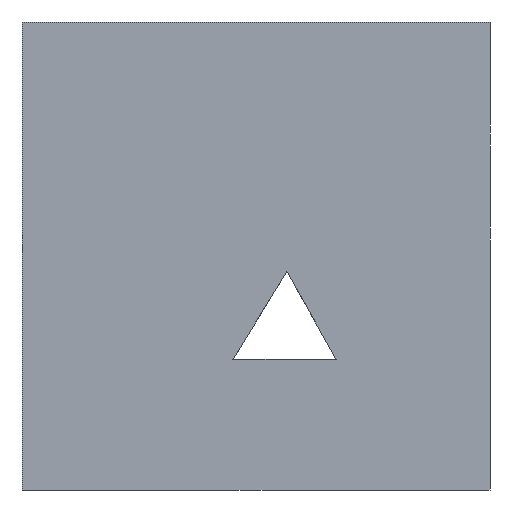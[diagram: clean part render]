
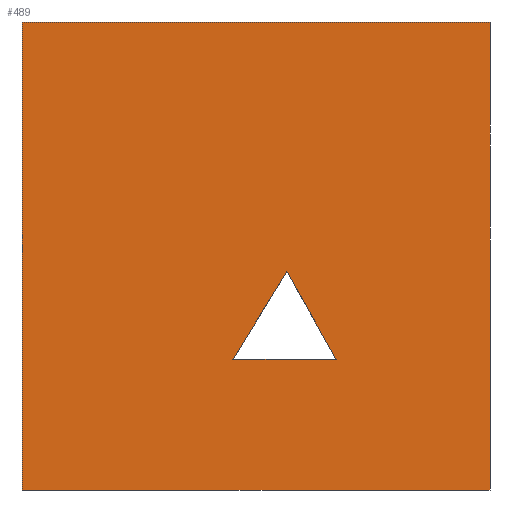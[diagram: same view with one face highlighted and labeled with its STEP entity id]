
A CAD part, left-side view. The second image highlights one B-rep face of the part: STEP entity #489.
In plain terms, the highlighted planar face has unit normal (-1, 0, 0).
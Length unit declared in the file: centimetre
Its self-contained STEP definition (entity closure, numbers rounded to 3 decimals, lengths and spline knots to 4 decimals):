
#4 = ORIENTED_EDGE ( 'NONE', *, *, #1281, .T. ) ;
#41 = CARTESIAN_POINT ( 'NONE',  ( 0., 328.808, 279.0537 ) ) ;
#92 = DIRECTION ( 'NONE',  ( 0., 0.488, 0.873 ) ) ;
#167 = ORIENTED_EDGE ( 'NONE', *, *, #1050, .F. ) ;
#169 = DIRECTION ( 'NONE',  ( 0., 0.523, -0.852 ) ) ;
#170 = CARTESIAN_POINT ( 'NONE',  ( 0., 1000., 0. ) ) ;
#197 = PLANE ( 'NONE',  #815 ) ;
#215 = EDGE_CURVE ( 'NONE', #1086, #623, #1812, .T. ) ;
#217 = DIRECTION ( 'NONE',  ( 0., -1., 0. ) ) ;
#263 = EDGE_LOOP ( 'NONE', ( #4, #1745, #1814, #776 ) ) ;
#270 = CARTESIAN_POINT ( 'NONE',  ( 0., 1000., 1000. ) ) ;
#276 = ORIENTED_EDGE ( 'NONE', *, *, #349, .F. ) ;
#304 = ORIENTED_EDGE ( 'NONE', *, *, #1028, .F. ) ;
#345 = CARTESIAN_POINT ( 'NONE',  ( 0., 1000., 1000. ) ) ;
#349 = EDGE_CURVE ( 'NONE', #649, #367, #1310, .T. ) ;
#367 = VERTEX_POINT ( 'NONE', #1007 ) ;
#392 = VERTEX_POINT ( 'NONE', #41 ) ;
#417 = DIRECTION ( 'NONE',  ( 0., 0., -1. ) ) ;
#489 = ADVANCED_FACE ( 'NONE', ( #1602, #1462 ), #197, .F. ) ;
#511 = LINE ( 'NONE', #1503, #1585 ) ;
#589 = LINE ( 'NONE', #1134, #1588 ) ;
#623 = VERTEX_POINT ( 'NONE', #1815 ) ;
#649 = VERTEX_POINT ( 'NONE', #967 ) ;
#726 = EDGE_LOOP ( 'NONE', ( #276, #304, #167 ) ) ;
#759 = DIRECTION ( 'NONE',  ( 1., 0., 0. ) ) ;
#776 = ORIENTED_EDGE ( 'NONE', *, *, #1360, .T. ) ;
#810 = CARTESIAN_POINT ( 'NONE',  ( 0., 1000., 1000. ) ) ;
#815 = AXIS2_PLACEMENT_3D ( 'NONE', #345, #759, #909 ) ;
#871 = VECTOR ( 'NONE', #973, 100. ) ;
#873 = CARTESIAN_POINT ( 'NONE',  ( 0., 1000., 1000. ) ) ;
#909 = DIRECTION ( 'NONE',  ( 0., 0., -1. ) ) ;
#911 = DIRECTION ( 'NONE',  ( 0., 0., -1. ) ) ;
#967 = CARTESIAN_POINT ( 'NONE',  ( 0., 433.883, 466.9969 ) ) ;
#973 = DIRECTION ( 'NONE',  ( 0., -1., 0. ) ) ;
#1007 = CARTESIAN_POINT ( 'NONE',  ( 0., 549.2601, 279.0537 ) ) ;
#1028 = EDGE_CURVE ( 'NONE', #392, #649, #511, .T. ) ;
#1050 = EDGE_CURVE ( 'NONE', #367, #392, #1351, .T. ) ;
#1066 = VERTEX_POINT ( 'NONE', #1803 ) ;
#1086 = VERTEX_POINT ( 'NONE', #810 ) ;
#1088 = VERTEX_POINT ( 'NONE', #1792 ) ;
#1134 = CARTESIAN_POINT ( 'NONE',  ( 0., 0., 1000. ) ) ;
#1170 = VECTOR ( 'NONE', #1552, 100. ) ;
#1219 = EDGE_CURVE ( 'NONE', #623, #1066, #589, .T. ) ;
#1281 = EDGE_CURVE ( 'NONE', #1088, #1066, #1434, .T. ) ;
#1310 = LINE ( 'NONE', #1597, #1820 ) ;
#1351 = LINE ( 'NONE', #1782, #1823 ) ;
#1360 = EDGE_CURVE ( 'NONE', #1086, #1088, #1475, .T. ) ;
#1412 = VECTOR ( 'NONE', #911, 100. ) ;
#1434 = LINE ( 'NONE', #170, #1170 ) ;
#1462 = FACE_OUTER_BOUND ( 'NONE', #263, .T. ) ;
#1475 = LINE ( 'NONE', #873, #1412 ) ;
#1503 = CARTESIAN_POINT ( 'NONE',  ( 0., 328.808, 279.0537 ) ) ;
#1552 = DIRECTION ( 'NONE',  ( 0., -1., 0. ) ) ;
#1585 = VECTOR ( 'NONE', #92, 100. ) ;
#1588 = VECTOR ( 'NONE', #417, 100. ) ;
#1597 = CARTESIAN_POINT ( 'NONE',  ( 0., 433.883, 466.9969 ) ) ;
#1602 = FACE_BOUND ( 'NONE', #726, .T. ) ;
#1745 = ORIENTED_EDGE ( 'NONE', *, *, #1219, .F. ) ;
#1782 = CARTESIAN_POINT ( 'NONE',  ( 0., 549.2601, 279.0537 ) ) ;
#1792 = CARTESIAN_POINT ( 'NONE',  ( 0., 1000., 0. ) ) ;
#1803 = CARTESIAN_POINT ( 'NONE',  ( 0., 0., 0. ) ) ;
#1812 = LINE ( 'NONE', #270, #871 ) ;
#1814 = ORIENTED_EDGE ( 'NONE', *, *, #215, .F. ) ;
#1815 = CARTESIAN_POINT ( 'NONE',  ( 0., 0., 1000. ) ) ;
#1820 = VECTOR ( 'NONE', #169, 100. ) ;
#1823 = VECTOR ( 'NONE', #217, 100. ) ;
